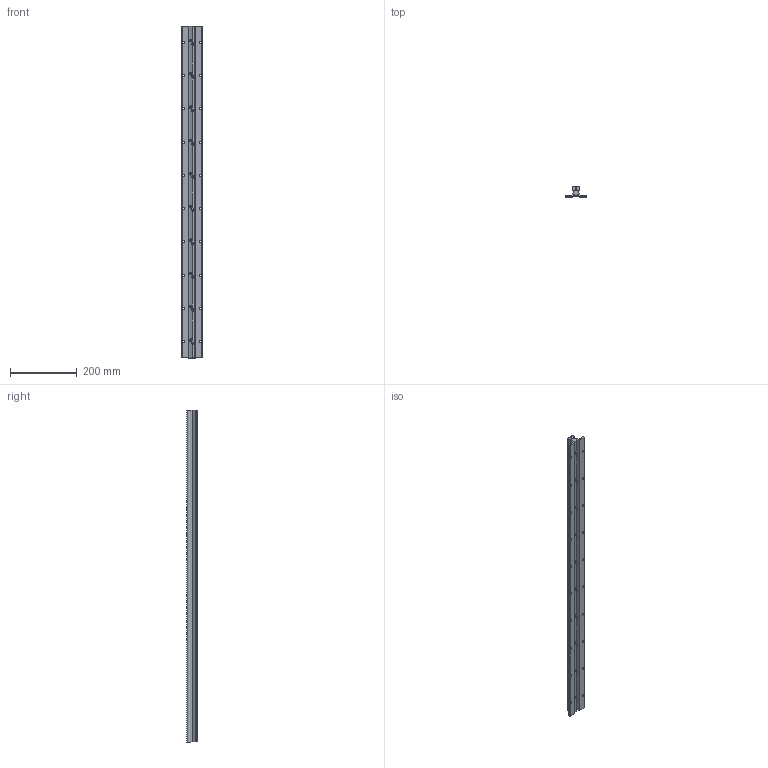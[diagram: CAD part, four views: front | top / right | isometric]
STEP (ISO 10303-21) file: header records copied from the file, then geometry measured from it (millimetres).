
FILE_DESCRIPTION (( 'STEP AP203' ), '1' );
FILE_NAME ('LF 2_-_LF 2 998 mm lang.step', '2005-06-03T06:15:06', ( ' ' ), ( ' ' ), 'SwSTEP 2.0', 'SolidWorks 2004231', '' );
FILE_SCHEMA (( 'CONFIG_CONTROL_DESIGN' ));
Length unit declared in the file: millimetre
Products named in the file (1): LF 2_-_LF 2  998 mm lang
Bounding box: 62 x 31 x 998 mm (x, y, z)
Volume: 694121.6 mm3; surface area: 225982.8 mm2
Topology: 1 solids, 1 shells, 541 faces, 1418 edges, 858 vertices
Faces by surface type: cylinder 270, plane 191, torus 40, cone 40
Entity records: 16761 total; most frequent: CARTESIAN_POINT 4378, ORIENTED_EDGE 2756, DIRECTION 2366, EDGE_CURVE 1378, VERTEX_POINT 858, AXIS2_PLACEMENT_3D 846, VECTOR 674, LINE 674
